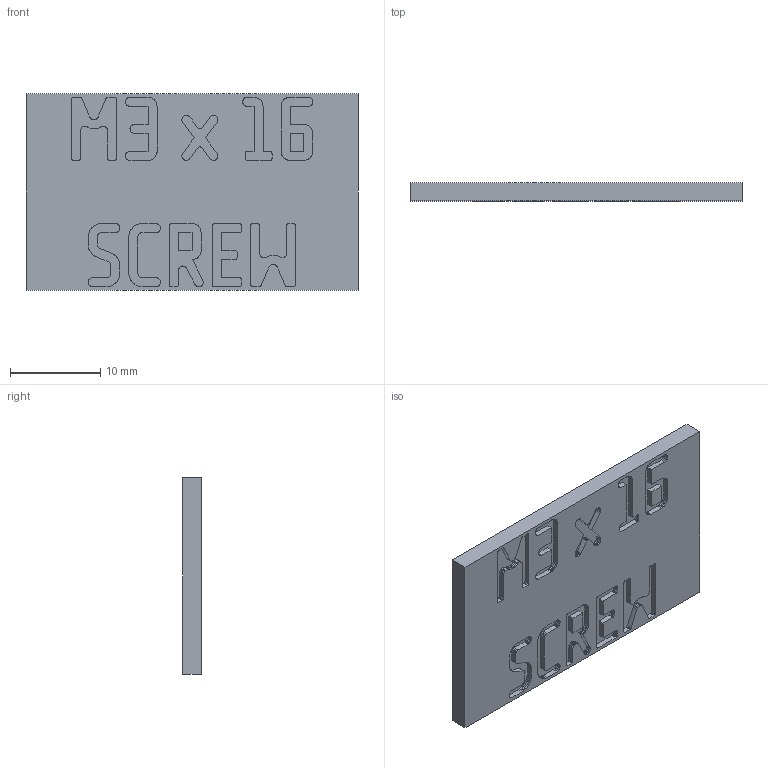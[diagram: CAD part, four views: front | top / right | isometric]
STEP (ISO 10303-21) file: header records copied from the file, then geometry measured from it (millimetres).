
FILE_DESCRIPTION(('Open CASCADE Model'),'2;1');
FILE_NAME('Open CASCADE Shape Model','2026-11-03T17:09:41',('Author'),( 'Open CASCADE'),'Open CASCADE STEP processor 8.0','build123d', 'Unknown');
FILE_SCHEMA(('AUTOMOTIVE_DESIGN { 1 0 10303 214 1 1 1 1 }'));
Length unit declared in the file: millimetre
Products named in the file (2): =>[0:1:1:2]; COMPOUND
Assembly tree (1 placements, depth 2):
  =>[0:1:1:2]
    COMPOUND
Bounding box: 36.8 x 2 x 21.8 mm (x, y, z)
Volume: 1519.1 mm3; surface area: 2005.5 mm2
Topology: 1 solids, 1 shells, 1119 faces, 3315 edges, 2210 vertices
Faces by surface type: plane 1119
Entity records: 79732 total; most frequent: CARTESIAN_POINT 13276, DIRECTION 12187, LINE 9945, VECTOR 9945, ORIENTED_EDGE 6630, PCURVE 6630, DEFINITIONAL_REPRESENTATION 6630, EDGE_CURVE 3315
